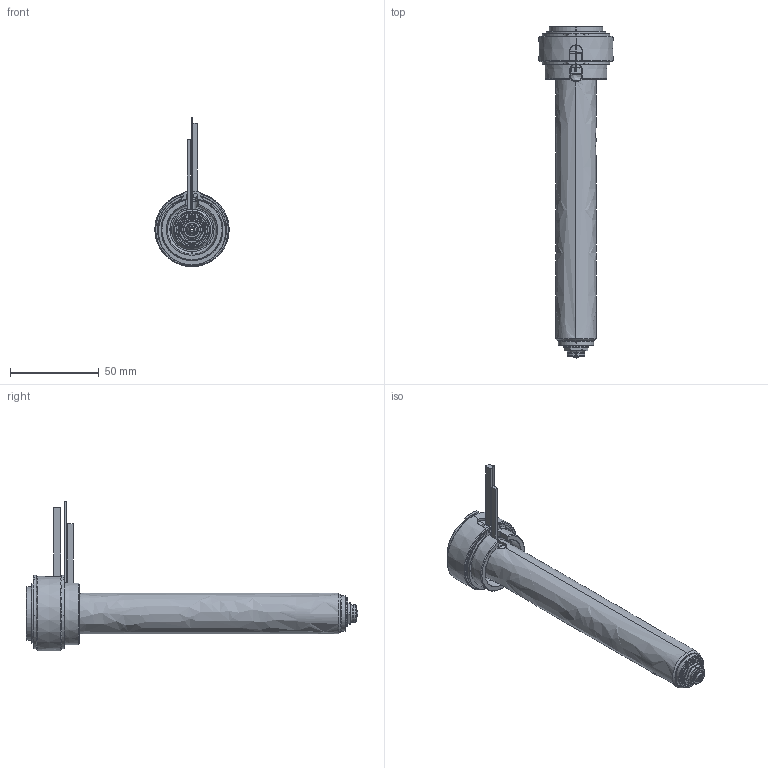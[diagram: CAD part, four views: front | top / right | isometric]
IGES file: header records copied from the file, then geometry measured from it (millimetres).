
Start section: SolidWorks IGES file using analytic representation for surfaces
Global section: file name: C:\Documents and Settings\ws-20\Desktop\TEM\UGER3554-M-A-1 [Øb-1.50  ØC-7.0].IGS; native system: SolidWorks 2012; preprocessor: SolidWorks 2012; author: ws-20; date: 120410.101423; units: millimetre
Bounding box: 42 x 187.4 x 84.4 mm (x, y, z)
Surface area: 52305.5 mm2 (no closed solid volume)
Topology: 0 solids, 0 shells, 196 faces, 3244 edges, 3244 vertices
Faces by surface type: revolution 126, bspline 70
